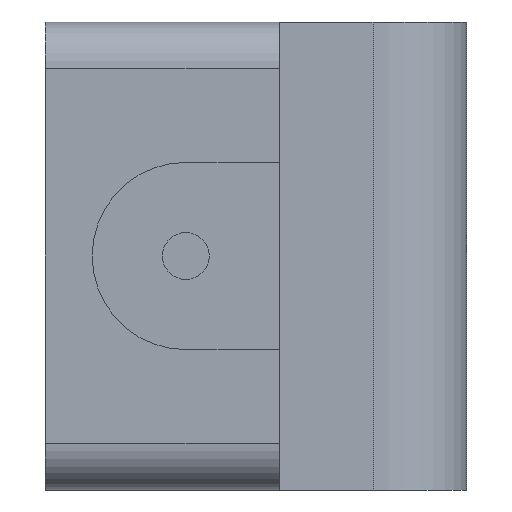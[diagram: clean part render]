
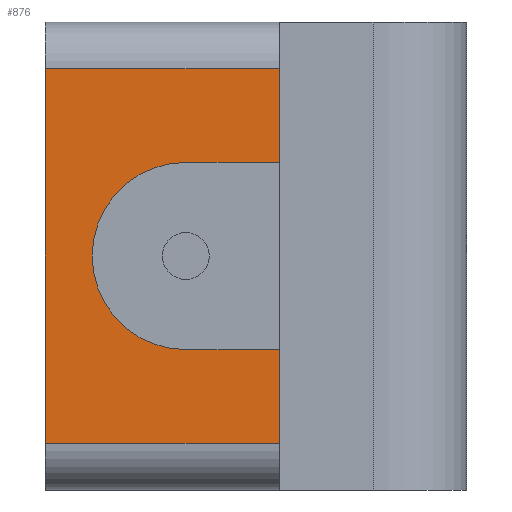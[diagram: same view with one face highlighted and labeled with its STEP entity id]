
A CAD part, left-side view. The second image highlights one B-rep face of the part: STEP entity #876.
In plain terms, the highlighted planar face has unit normal (-1, 0, 0).
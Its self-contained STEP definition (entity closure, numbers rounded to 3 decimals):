
#9 = ORIENTED_EDGE ( 'NONE', *, *, #533, .F. ) ;
#27 = CARTESIAN_POINT ( 'NONE',  ( 0., 16., 0. ) ) ;
#31 = AXIS2_PLACEMENT_3D ( 'NONE', #1416, #1424, #659 ) ;
#45 = ORIENTED_EDGE ( 'NONE', *, *, #835, .T. ) ;
#89 = VERTEX_POINT ( 'NONE', #330 ) ;
#114 = CIRCLE ( 'NONE', #162, 16. ) ;
#156 = VERTEX_POINT ( 'NONE', #1222 ) ;
#158 = EDGE_CURVE ( 'NONE', #654, #247, #1260, .T. ) ;
#162 = AXIS2_PLACEMENT_3D ( 'NONE', #27, #387, #518 ) ;
#170 = VERTEX_POINT ( 'NONE', #232 ) ;
#197 = VERTEX_POINT ( 'NONE', #342 ) ;
#201 = EDGE_CURVE ( 'NONE', #351, #1319, #374, .T. ) ;
#202 = PLANE ( 'NONE',  #779 ) ;
#232 = CARTESIAN_POINT ( 'NONE',  ( 0., 0., -16. ) ) ;
#243 = VECTOR ( 'NONE', #762, 1000. ) ;
#244 = CARTESIAN_POINT ( 'NONE',  ( 0., 40., 40. ) ) ;
#247 = VERTEX_POINT ( 'NONE', #491 ) ;
#250 = CARTESIAN_POINT ( 'NONE',  ( 0., 0., 16. ) ) ;
#257 = CARTESIAN_POINT ( 'NONE',  ( 0., 0., 40. ) ) ;
#321 = CARTESIAN_POINT ( 'NONE',  ( 0., 40., 40. ) ) ;
#327 = VECTOR ( 'NONE', #478, 1000. ) ;
#330 = CARTESIAN_POINT ( 'NONE',  ( 0., 16., -16. ) ) ;
#342 = CARTESIAN_POINT ( 'NONE',  ( 0., 0., 16. ) ) ;
#346 = DIRECTION ( 'NONE',  ( 0., 0., -1. ) ) ;
#351 = VERTEX_POINT ( 'NONE', #1255 ) ;
#372 = DIRECTION ( 'NONE',  ( 0., 1., 0. ) ) ;
#374 = LINE ( 'NONE', #1371, #327 ) ;
#382 = EDGE_CURVE ( 'NONE', #623, #89, #114, .T. ) ;
#387 = DIRECTION ( 'NONE',  ( -1., 0., 0. ) ) ;
#415 = VECTOR ( 'NONE', #499, 1000. ) ;
#452 = EDGE_CURVE ( 'NONE', #156, #623, #1106, .T. ) ;
#454 = VECTOR ( 'NONE', #346, 1000. ) ;
#478 = DIRECTION ( 'NONE',  ( 0., 1., 0. ) ) ;
#491 = CARTESIAN_POINT ( 'NONE',  ( 0., 0., -32. ) ) ;
#499 = DIRECTION ( 'NONE',  ( 0., -1., 0. ) ) ;
#518 = DIRECTION ( 'NONE',  ( 0., 1., 0. ) ) ;
#533 = EDGE_CURVE ( 'NONE', #89, #170, #1505, .T. ) ;
#537 = DIRECTION ( 'NONE',  ( 0., -1., 0. ) ) ;
#550 = ORIENTED_EDGE ( 'NONE', *, *, #452, .F. ) ;
#584 = LINE ( 'NONE', #250, #243 ) ;
#623 = VERTEX_POINT ( 'NONE', #1075 ) ;
#654 = VERTEX_POINT ( 'NONE', #1185 ) ;
#659 = DIRECTION ( 'NONE',  ( 0., 1., 0. ) ) ;
#688 = CARTESIAN_POINT ( 'NONE',  ( 0., 0., 40. ) ) ;
#720 = EDGE_CURVE ( 'NONE', #351, #197, #785, .T. ) ;
#760 = ORIENTED_EDGE ( 'NONE', *, *, #158, .T. ) ;
#762 = DIRECTION ( 'NONE',  ( 0., 1., 0. ) ) ;
#779 = AXIS2_PLACEMENT_3D ( 'NONE', #244, #1010, #372 ) ;
#785 = LINE ( 'NONE', #688, #1026 ) ;
#793 = ORIENTED_EDGE ( 'NONE', *, *, #1578, .F. ) ;
#820 = VECTOR ( 'NONE', #537, 1000. ) ;
#835 = EDGE_CURVE ( 'NONE', #1319, #654, #1157, .T. ) ;
#876 = ADVANCED_FACE ( 'NONE', ( #1082 ), #202, .F. ) ;
#916 = ORIENTED_EDGE ( 'NONE', *, *, #720, .F. ) ;
#1010 = DIRECTION ( 'NONE',  ( 1., 0., 0. ) ) ;
#1026 = VECTOR ( 'NONE', #1451, 1000. ) ;
#1062 = LINE ( 'NONE', #257, #1120 ) ;
#1075 = CARTESIAN_POINT ( 'NONE',  ( 0., 32., 0. ) ) ;
#1082 = FACE_OUTER_BOUND ( 'NONE', #1619, .T. ) ;
#1092 = EDGE_CURVE ( 'NONE', #197, #156, #584, .T. ) ;
#1106 = CIRCLE ( 'NONE', #31, 16. ) ;
#1120 = VECTOR ( 'NONE', #1266, 1000. ) ;
#1157 = LINE ( 'NONE', #321, #454 ) ;
#1185 = CARTESIAN_POINT ( 'NONE',  ( 0., 40., -32. ) ) ;
#1220 = CARTESIAN_POINT ( 'NONE',  ( 0., 40., 32. ) ) ;
#1222 = CARTESIAN_POINT ( 'NONE',  ( 0., 16., 16. ) ) ;
#1248 = ORIENTED_EDGE ( 'NONE', *, *, #201, .T. ) ;
#1255 = CARTESIAN_POINT ( 'NONE',  ( 0., 0., 32. ) ) ;
#1260 = LINE ( 'NONE', #1357, #415 ) ;
#1266 = DIRECTION ( 'NONE',  ( 0., 0., -1. ) ) ;
#1294 = CARTESIAN_POINT ( 'NONE',  ( 0., 0., -16. ) ) ;
#1319 = VERTEX_POINT ( 'NONE', #1220 ) ;
#1357 = CARTESIAN_POINT ( 'NONE',  ( 0., 0., -32. ) ) ;
#1371 = CARTESIAN_POINT ( 'NONE',  ( 0., 40., 32. ) ) ;
#1416 = CARTESIAN_POINT ( 'NONE',  ( 0., 16., 0. ) ) ;
#1424 = DIRECTION ( 'NONE',  ( -1., 0., 0. ) ) ;
#1437 = ORIENTED_EDGE ( 'NONE', *, *, #382, .F. ) ;
#1451 = DIRECTION ( 'NONE',  ( 0., 0., -1. ) ) ;
#1505 = LINE ( 'NONE', #1294, #820 ) ;
#1578 = EDGE_CURVE ( 'NONE', #170, #247, #1062, .T. ) ;
#1598 = ORIENTED_EDGE ( 'NONE', *, *, #1092, .F. ) ;
#1619 = EDGE_LOOP ( 'NONE', ( #9, #1437, #550, #1598, #916, #1248, #45, #760, #793 ) ) ;
